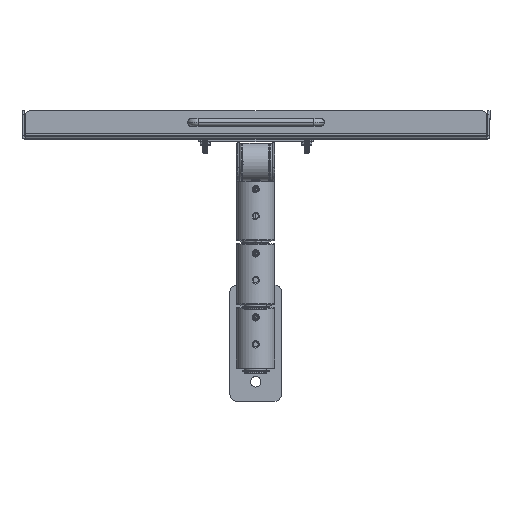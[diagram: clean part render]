
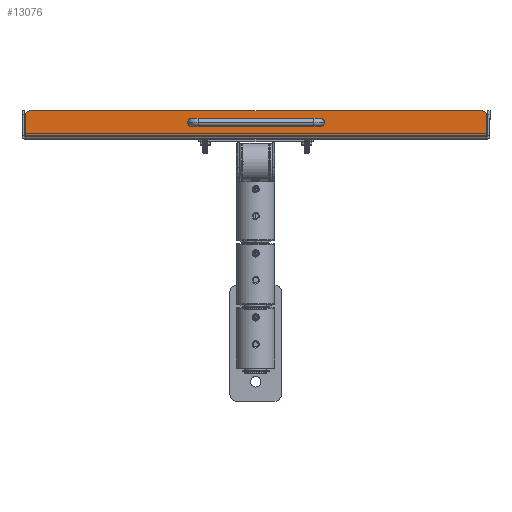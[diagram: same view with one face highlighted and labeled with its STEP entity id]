
A CAD part, top view. The second image highlights one B-rep face of the part: STEP entity #13076.
In plain terms, the highlighted planar face has unit normal (0, 0, 1).
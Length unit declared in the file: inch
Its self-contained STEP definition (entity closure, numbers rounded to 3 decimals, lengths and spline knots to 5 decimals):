
#128 = EDGE_CURVE ( 'NONE', #10686, #35107, #27569, .T. ) ;
#360 = DIRECTION ( 'NONE',  ( -1., 0., 0. ) ) ;
#905 = CARTESIAN_POINT ( 'NONE',  ( -8.96464, 0.032, 6.09 ) ) ;
#967 = ORIENTED_EDGE ( 'NONE', *, *, #29393, .T. ) ;
#1617 = CARTESIAN_POINT ( 'NONE',  ( 2.5, 0.55, 6.09 ) ) ;
#1998 = VECTOR ( 'NONE', #10966, 39.37008 ) ;
#2174 = AXIS2_PLACEMENT_3D ( 'NONE', #13382, #24598, #27530 ) ;
#2236 = EDGE_CURVE ( 'NONE', #28774, #8132, #22564, .T. ) ;
#2605 = AXIS2_PLACEMENT_3D ( 'NONE', #1617, #12451, #12991 ) ;
#3193 = DIRECTION ( 'NONE',  ( -1., 0., 0. ) ) ;
#3271 = DIRECTION ( 'NONE',  ( 0., -1., 0. ) ) ;
#3274 = ORIENTED_EDGE ( 'NONE', *, *, #21857, .T. ) ;
#4751 = ORIENTED_EDGE ( 'NONE', *, *, #36195, .F. ) ;
#5148 = CARTESIAN_POINT ( 'NONE',  ( -8.75, 1., 6.09 ) ) ;
#5491 = CIRCLE ( 'NONE', #10160, 0.1005 ) ;
#5851 = EDGE_CURVE ( 'NONE', #9421, #12035, #22834, .T. ) ;
#6163 = CIRCLE ( 'NONE', #11446, 0.25 ) ;
#7584 = AXIS2_PLACEMENT_3D ( 'NONE', #31264, #14162, #360 ) ;
#7658 = LINE ( 'NONE', #33213, #1998 ) ;
#8132 = VERTEX_POINT ( 'NONE', #29368 ) ;
#8282 = DIRECTION ( 'NONE',  ( 0., 0., -1. ) ) ;
#8557 = VECTOR ( 'NONE', #30749, 39.37008 ) ;
#8610 = CIRCLE ( 'NONE', #2174, 0.25 ) ;
#9421 = VERTEX_POINT ( 'NONE', #5148 ) ;
#9508 = CARTESIAN_POINT ( 'NONE',  ( 8.96464, 0.75, 6.09 ) ) ;
#9875 = VERTEX_POINT ( 'NONE', #17395 ) ;
#10160 = AXIS2_PLACEMENT_3D ( 'NONE', #28355, #33873, #3193 ) ;
#10686 = VERTEX_POINT ( 'NONE', #19733 ) ;
#10966 = DIRECTION ( 'NONE',  ( 1., 0., 0. ) ) ;
#11288 = VERTEX_POINT ( 'NONE', #905 ) ;
#11446 = AXIS2_PLACEMENT_3D ( 'NONE', #30544, #8282, #33642 ) ;
#11472 = VECTOR ( 'NONE', #20753, 39.37008 ) ;
#11879 = LINE ( 'NONE', #23116, #13979 ) ;
#11977 = DIRECTION ( 'NONE',  ( 0., 0., -1. ) ) ;
#12035 = VERTEX_POINT ( 'NONE', #14056 ) ;
#12451 = DIRECTION ( 'NONE',  ( 0., 0., -1. ) ) ;
#12798 = ORIENTED_EDGE ( 'NONE', *, *, #5851, .F. ) ;
#12991 = DIRECTION ( 'NONE',  ( -1., 0., 0. ) ) ;
#13076 = ADVANCED_FACE ( 'NONE', ( #22590, #22402, #22768 ), #33589, .T. ) ;
#13093 = EDGE_LOOP ( 'NONE', ( #13323, #35401 ) ) ;
#13323 = ORIENTED_EDGE ( 'NONE', *, *, #28757, .T. ) ;
#13335 = AXIS2_PLACEMENT_3D ( 'NONE', #19655, #33774, #3271 ) ;
#13382 = CARTESIAN_POINT ( 'NONE',  ( -8.75, 0.75, 6.09 ) ) ;
#13549 = ORIENTED_EDGE ( 'NONE', *, *, #33395, .F. ) ;
#13979 = VECTOR ( 'NONE', #21265, 39.37008 ) ;
#14056 = CARTESIAN_POINT ( 'NONE',  ( 8.75, 1., 6.09 ) ) ;
#14162 = DIRECTION ( 'NONE',  ( 0., 0., -1. ) ) ;
#14761 = CARTESIAN_POINT ( 'NONE',  ( -8.96464, 0.87817, 6.09 ) ) ;
#15312 = CARTESIAN_POINT ( 'NONE',  ( -2.6005, 0.55, 6.09 ) ) ;
#16990 = EDGE_LOOP ( 'NONE', ( #17703, #29756 ) ) ;
#17073 = VERTEX_POINT ( 'NONE', #33187 ) ;
#17395 = CARTESIAN_POINT ( 'NONE',  ( 8.96464, 0.87817, 6.09 ) ) ;
#17703 = ORIENTED_EDGE ( 'NONE', *, *, #128, .T. ) ;
#17710 = CARTESIAN_POINT ( 'NONE',  ( 2.3995, 0.55, 6.09 ) ) ;
#18966 = AXIS2_PLACEMENT_3D ( 'NONE', #19545, #11977, #31831 ) ;
#19222 = EDGE_LOOP ( 'NONE', ( #32086, #13549, #12798, #4751, #3274, #967 ) ) ;
#19545 = CARTESIAN_POINT ( 'NONE',  ( -2.5, 0.55, 6.09 ) ) ;
#19655 = CARTESIAN_POINT ( 'NONE',  ( 8.75, 0.75, 6.09 ) ) ;
#19733 = CARTESIAN_POINT ( 'NONE',  ( -2.3995, 0.55, 6.09 ) ) ;
#20753 = DIRECTION ( 'NONE',  ( 0., -1., 0. ) ) ;
#21265 = DIRECTION ( 'NONE',  ( 0., -1., 0. ) ) ;
#21857 = EDGE_CURVE ( 'NONE', #28834, #11288, #11879, .T. ) ;
#22402 = FACE_OUTER_BOUND ( 'NONE', #19222, .T. ) ;
#22564 = CIRCLE ( 'NONE', #2605, 0.1005 ) ;
#22590 = FACE_BOUND ( 'NONE', #16990, .T. ) ;
#22768 = FACE_BOUND ( 'NONE', #13093, .T. ) ;
#22834 = LINE ( 'NONE', #33316, #8557 ) ;
#23116 = CARTESIAN_POINT ( 'NONE',  ( -8.96464, 0.75, 6.09 ) ) ;
#24598 = DIRECTION ( 'NONE',  ( 0., 0., -1. ) ) ;
#24685 = EDGE_CURVE ( 'NONE', #35107, #10686, #31293, .T. ) ;
#27530 = DIRECTION ( 'NONE',  ( 0., -1., 0. ) ) ;
#27569 = CIRCLE ( 'NONE', #7584, 0.1005 ) ;
#28355 = CARTESIAN_POINT ( 'NONE',  ( 2.5, 0.55, 6.09 ) ) ;
#28757 = EDGE_CURVE ( 'NONE', #8132, #28774, #5491, .T. ) ;
#28774 = VERTEX_POINT ( 'NONE', #17710 ) ;
#28834 = VERTEX_POINT ( 'NONE', #14761 ) ;
#29368 = CARTESIAN_POINT ( 'NONE',  ( 2.6005, 0.55, 6.09 ) ) ;
#29393 = EDGE_CURVE ( 'NONE', #11288, #17073, #7658, .T. ) ;
#29756 = ORIENTED_EDGE ( 'NONE', *, *, #24685, .T. ) ;
#30544 = CARTESIAN_POINT ( 'NONE',  ( 8.75, 0.75, 6.09 ) ) ;
#30749 = DIRECTION ( 'NONE',  ( 1., 0., 0. ) ) ;
#31264 = CARTESIAN_POINT ( 'NONE',  ( -2.5, 0.55, 6.09 ) ) ;
#31293 = CIRCLE ( 'NONE', #18966, 0.1005 ) ;
#31831 = DIRECTION ( 'NONE',  ( -1., 0., 0. ) ) ;
#32086 = ORIENTED_EDGE ( 'NONE', *, *, #34164, .F. ) ;
#33187 = CARTESIAN_POINT ( 'NONE',  ( 8.96464, 0.032, 6.09 ) ) ;
#33213 = CARTESIAN_POINT ( 'NONE',  ( 8.75, 0.032, 6.09 ) ) ;
#33316 = CARTESIAN_POINT ( 'NONE',  ( 8.75, 1., 6.09 ) ) ;
#33395 = EDGE_CURVE ( 'NONE', #12035, #9875, #6163, .T. ) ;
#33589 = PLANE ( 'NONE',  #13335 ) ;
#33642 = DIRECTION ( 'NONE',  ( 0., -1., 0. ) ) ;
#33774 = DIRECTION ( 'NONE',  ( 0., 0., 1. ) ) ;
#33873 = DIRECTION ( 'NONE',  ( 0., 0., -1. ) ) ;
#34164 = EDGE_CURVE ( 'NONE', #9875, #17073, #34681, .T. ) ;
#34681 = LINE ( 'NONE', #9508, #11472 ) ;
#35107 = VERTEX_POINT ( 'NONE', #15312 ) ;
#35401 = ORIENTED_EDGE ( 'NONE', *, *, #2236, .T. ) ;
#36195 = EDGE_CURVE ( 'NONE', #28834, #9421, #8610, .T. ) ;
